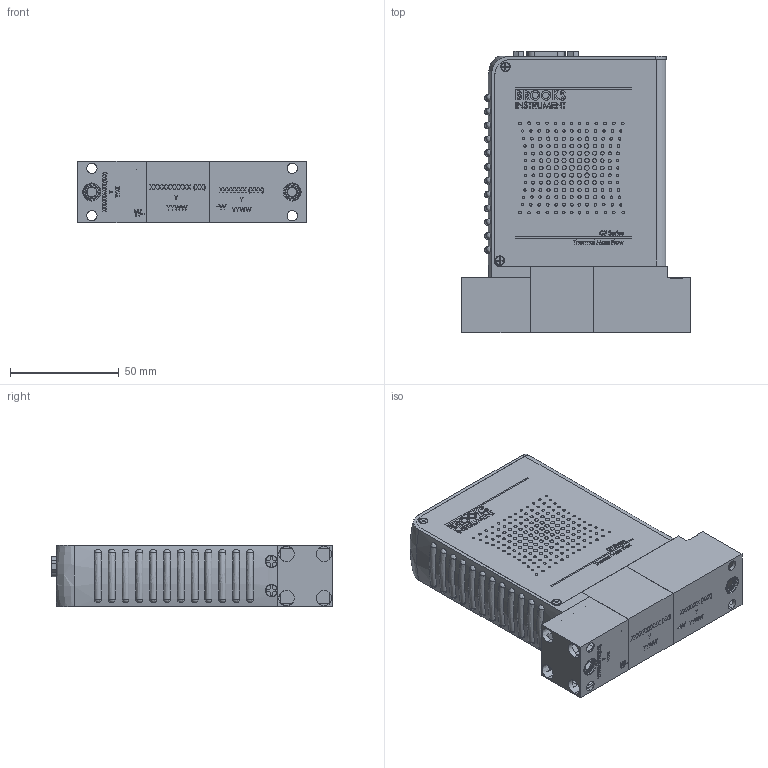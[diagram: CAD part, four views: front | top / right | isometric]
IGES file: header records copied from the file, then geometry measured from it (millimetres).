
Start section: SolidWorks IGES file using analytic representation for surfaces
Global section: file name: G:\Engineering\CAD MODELS FOR SALES\CAD MODEL STORAGE\GF\GF125\CUSTOMER FILES\IGES\GF100-GF120-GF125-WX-G1.IGS; native system: SolidWorks 2020; preprocessor: SolidWorks 2020; author: CFehr; date: 220830.082218; units: inch
Bounding box: 104.95 x 129.41 x 28.46 mm (x, y, z)
Volume: 55749.2 mm3; surface area: 79132.4 mm2
Topology: 66 solids, 66 shells, 3170 faces, 8100 edges, 5310 vertices
Faces by surface type: plane 1962, revolution 858, bspline 350
